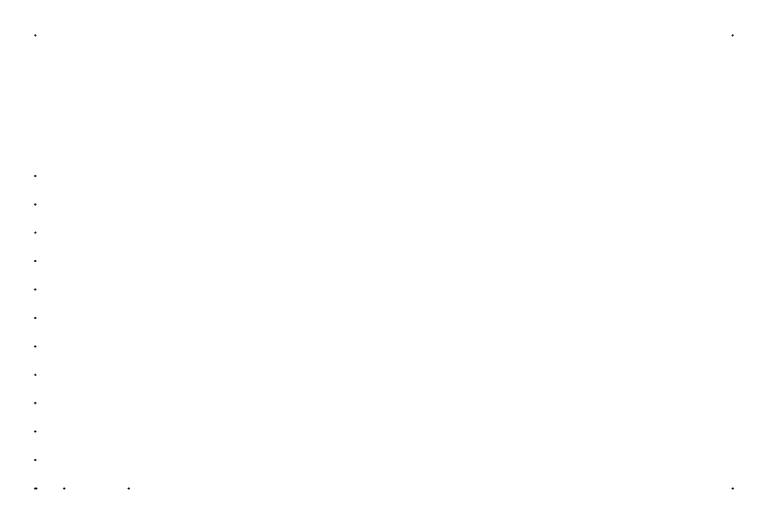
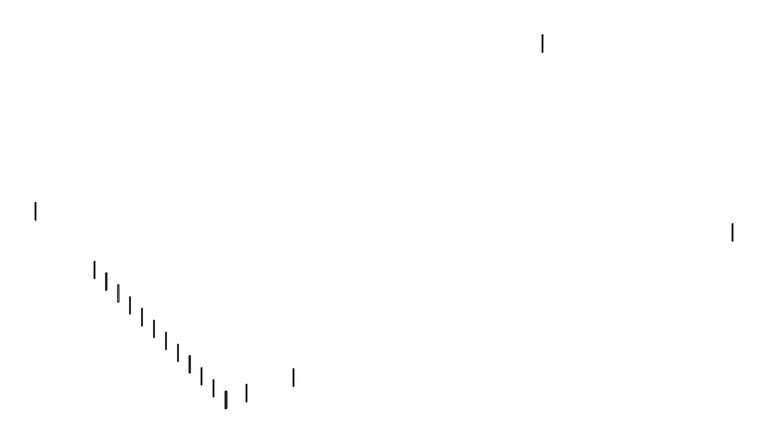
"""IFC4 building model written with IfcOpenShell, lengths in millimetres: railing geometry."""

from ifc_helpers import new_model, si_unit, point, frame, frame_2d, origin, place, context, project, spatial, circle_curve, trimmed, segment, composite_curve, outline, extrude, source, transform, mapped, element, save


def railing_9d34a361(model_context):
    return source(origin(), model_context, "Body", "SweptSolid", [
        extrude(outline(composite_curve([segment(trimmed(circle_curve(frame_2d((-6584.137978, 1915.9159601)), 12.5), [point((-6596.637978, 1915.9159601))], [point((-6571.637978, 1915.9159601))], False, "CARTESIAN"), True, "CONTINUOUS"), segment(trimmed(circle_curve(frame_2d((-6584.137978, 1915.9159601)), 12.5), [point((-6571.637978, 1915.9159601))], [point((-6596.637978, 1915.9159601))], False, "CARTESIAN"), True, "CONTINUOUS")], self_intersect=False)), frame((0.0, 0.0, 4000.0), z_axis=(0.0, 0.0, 1.0), x_axis=(1.0, 0.0, 0.0)), (0.0, 0.0, 1.0), 860.0),
        extrude(outline(composite_curve([segment(trimmed(circle_curve(frame_2d((-6584.137978, 915.9159601)), 12.5), [point((-6596.637978, 915.9159601))], [point((-6571.637978, 915.9159601))], False, "CARTESIAN"), True, "CONTINUOUS"), segment(trimmed(circle_curve(frame_2d((-6584.137978, 915.9159601)), 12.5), [point((-6571.637978, 915.9159601))], [point((-6596.637978, 915.9159601))], False, "CARTESIAN"), True, "CONTINUOUS")], self_intersect=False)), frame((0.0, 0.0, 4000.0), z_axis=(0.0, 0.0, 1.0), x_axis=(1.0, 0.0, 0.0)), (0.0, 0.0, 1.0), 860.0),
        extrude(outline(composite_curve([segment(trimmed(circle_curve(frame_2d((-6584.137978, -84.0840399)), 12.5), [point((-6596.637978, -84.0840399))], [point((-6571.637978, -84.0840399))], False, "CARTESIAN"), True, "CONTINUOUS"), segment(trimmed(circle_curve(frame_2d((-6584.137978, -84.0840399)), 12.5), [point((-6571.637978, -84.0840399))], [point((-6596.637978, -84.0840399))], False, "CARTESIAN"), True, "CONTINUOUS")], self_intersect=False)), frame((0.0, 0.0, 4000.0), z_axis=(0.0, 0.0, 1.0), x_axis=(1.0, 0.0, 0.0)), (0.0, 0.0, 1.0), 860.0),
        extrude(outline(composite_curve([segment(trimmed(circle_curve(frame_2d((-6584.137978, -1084.0840399)), 12.5), [point((-6596.637978, -1084.0840399))], [point((-6571.637978, -1084.0840399))], False, "CARTESIAN"), True, "CONTINUOUS"), segment(trimmed(circle_curve(frame_2d((-6584.137978, -1084.0840399)), 12.5), [point((-6571.637978, -1084.0840399))], [point((-6596.637978, -1084.0840399))], False, "CARTESIAN"), True, "CONTINUOUS")], self_intersect=False)), frame((0.0, 0.0, 4000.0), z_axis=(0.0, 0.0, 1.0), x_axis=(1.0, 0.0, 0.0)), (0.0, 0.0, 1.0), 860.0),
        extrude(outline(composite_curve([segment(trimmed(circle_curve(frame_2d((-6584.137978, -2084.0840399)), 12.5), [point((-6596.637978, -2084.0840399))], [point((-6571.637978, -2084.0840399))], False, "CARTESIAN"), True, "CONTINUOUS"), segment(trimmed(circle_curve(frame_2d((-6584.137978, -2084.0840399)), 12.5), [point((-6571.637978, -2084.0840399))], [point((-6596.637978, -2084.0840399))], False, "CARTESIAN"), True, "CONTINUOUS")], self_intersect=False)), frame((0.0, 0.0, 4000.0), z_axis=(0.0, 0.0, 1.0), x_axis=(1.0, 0.0, 0.0)), (0.0, 0.0, 1.0), 860.0),
        extrude(outline(composite_curve([segment(trimmed(circle_curve(frame_2d((-6584.137978, -3084.0840399)), 12.5), [point((-6596.637978, -3084.0840399))], [point((-6571.637978, -3084.0840399))], False, "CARTESIAN"), True, "CONTINUOUS"), segment(trimmed(circle_curve(frame_2d((-6584.137978, -3084.0840399)), 12.5), [point((-6571.637978, -3084.0840399))], [point((-6596.637978, -3084.0840399))], False, "CARTESIAN"), True, "CONTINUOUS")], self_intersect=False)), frame((0.0, 0.0, 4000.0), z_axis=(0.0, 0.0, 1.0), x_axis=(1.0, 0.0, 0.0)), (0.0, 0.0, 1.0), 860.0),
        extrude(outline(composite_curve([segment(trimmed(circle_curve(frame_2d((-6584.137978, -4084.0840399)), 12.5), [point((-6596.637978, -4084.0840399))], [point((-6571.637978, -4084.0840399))], False, "CARTESIAN"), True, "CONTINUOUS"), segment(trimmed(circle_curve(frame_2d((-6584.137978, -4084.0840399)), 12.5), [point((-6571.637978, -4084.0840399))], [point((-6596.637978, -4084.0840399))], False, "CARTESIAN"), True, "CONTINUOUS")], self_intersect=False)), frame((0.0, 0.0, 4000.0), z_axis=(0.0, 0.0, 1.0), x_axis=(1.0, 0.0, 0.0)), (0.0, 0.0, 1.0), 860.0),
        extrude(outline(composite_curve([segment(trimmed(circle_curve(frame_2d((-6584.137978, -5084.0840399)), 12.5), [point((-6596.637978, -5084.0840399))], [point((-6571.637978, -5084.0840399))], False, "CARTESIAN"), True, "CONTINUOUS"), segment(trimmed(circle_curve(frame_2d((-6584.137978, -5084.0840399)), 12.5), [point((-6571.637978, -5084.0840399))], [point((-6596.637978, -5084.0840399))], False, "CARTESIAN"), True, "CONTINUOUS")], self_intersect=False)), frame((0.0, 0.0, 4000.0), z_axis=(0.0, 0.0, 1.0), x_axis=(1.0, 0.0, 0.0)), (0.0, 0.0, 1.0), 860.0),
        extrude(outline(composite_curve([segment(trimmed(circle_curve(frame_2d((-6584.137978, -6084.0840399)), 12.5), [point((-6596.637978, -6084.0840399))], [point((-6571.637978, -6084.0840399))], False, "CARTESIAN"), True, "CONTINUOUS"), segment(trimmed(circle_curve(frame_2d((-6584.137978, -6084.0840399)), 12.5), [point((-6571.637978, -6084.0840399))], [point((-6596.637978, -6084.0840399))], False, "CARTESIAN"), True, "CONTINUOUS")], self_intersect=False)), frame((0.0, 0.0, 4000.0), z_axis=(0.0, 0.0, 1.0), x_axis=(1.0, 0.0, 0.0)), (0.0, 0.0, 1.0), 860.0),
        extrude(outline(composite_curve([segment(trimmed(circle_curve(frame_2d((-6584.137978, -7084.0840399)), 12.5), [point((-6596.637978, -7084.0840399))], [point((-6571.637978, -7084.0840399))], False, "CARTESIAN"), True, "CONTINUOUS"), segment(trimmed(circle_curve(frame_2d((-6584.137978, -7084.0840399)), 12.5), [point((-6571.637978, -7084.0840399))], [point((-6596.637978, -7084.0840399))], False, "CARTESIAN"), True, "CONTINUOUS")], self_intersect=False)), frame((0.0, 0.0, 4000.0), z_axis=(0.0, 0.0, 1.0), x_axis=(1.0, 0.0, 0.0)), (0.0, 0.0, 1.0), 860.0),
        extrude(outline(composite_curve([segment(trimmed(circle_curve(frame_2d((-6584.137978, -8084.0840399)), 12.5), [point((-6596.637978, -8084.0840399))], [point((-6571.637978, -8084.0840399))], False, "CARTESIAN"), True, "CONTINUOUS"), segment(trimmed(circle_curve(frame_2d((-6584.137978, -8084.0840399)), 12.5), [point((-6571.637978, -8084.0840399))], [point((-6596.637978, -8084.0840399))], False, "CARTESIAN"), True, "CONTINUOUS")], self_intersect=False)), frame((0.0, 0.0, 4000.0), z_axis=(0.0, 0.0, 1.0), x_axis=(1.0, 0.0, 0.0)), (0.0, 0.0, 1.0), 860.0),
        extrude(outline(composite_curve([segment(trimmed(circle_curve(frame_2d((-6549.137978, -9084.0840399)), 12.5), [point((-6549.137978, -9096.5840399))], [point((-6549.137978, -9071.5840399))], False, "CARTESIAN"), True, "CONTINUOUS"), segment(trimmed(circle_curve(frame_2d((-6549.137978, -9084.0840399)), 12.5), [point((-6549.137978, -9071.5840399))], [point((-6549.137978, -9096.5840399))], False, "CARTESIAN"), True, "CONTINUOUS")], self_intersect=False)), frame((0.0, 0.0, 4000.0), z_axis=(0.0, 0.0, 1.0), x_axis=(1.0, 0.0, 0.0)), (0.0, 0.0, 1.0), 860.0),
        extrude(outline(composite_curve([segment(trimmed(circle_curve(frame_2d((17965.862022, -9084.0840399)), 12.5), [point((17978.362022, -9084.0840399))], [point((17953.362022, -9084.0840399))], False, "CARTESIAN"), True, "CONTINUOUS"), segment(trimmed(circle_curve(frame_2d((17965.862022, -9084.0840399)), 12.5), [point((17953.362022, -9084.0840399))], [point((17978.362022, -9084.0840399))], False, "CARTESIAN"), True, "CONTINUOUS")], self_intersect=False)), frame((0.0, 0.0, 4000.0), z_axis=(0.0, 0.0, 1.0), x_axis=(1.0, 0.0, 0.0)), (0.0, 0.0, 1.0), 860.0),
        extrude(outline(composite_curve([segment(trimmed(circle_curve(frame_2d((17965.862022, 6865.9159601)), 12.5), [point((17965.862022, 6878.4159601))], [point((17965.862022, 6853.4159601))], False, "CARTESIAN"), True, "CONTINUOUS"), segment(trimmed(circle_curve(frame_2d((17965.862022, 6865.9159601)), 12.5), [point((17965.862022, 6853.4159601))], [point((17965.862022, 6878.4159601))], False, "CARTESIAN"), True, "CONTINUOUS")], self_intersect=False)), frame((0.0, 0.0, 4000.0), z_axis=(0.0, 0.0, 1.0), x_axis=(1.0, 0.0, 0.0)), (0.0, 0.0, 1.0), 860.0),
        extrude(outline(composite_curve([segment(trimmed(circle_curve(frame_2d((-6584.137978, 6865.9159601)), 12.5), [point((-6596.637978, 6865.9159601))], [point((-6571.637978, 6865.9159601))], False, "CARTESIAN"), True, "CONTINUOUS"), segment(trimmed(circle_curve(frame_2d((-6584.137978, 6865.9159601)), 12.5), [point((-6571.637978, 6865.9159601))], [point((-6596.637978, 6865.9159601))], False, "CARTESIAN"), True, "CONTINUOUS")], self_intersect=False)), frame((0.0, 0.0, 4000.0), z_axis=(0.0, 0.0, 1.0), x_axis=(1.0, 0.0, 0.0)), (0.0, 0.0, 1.0), 860.0),
        extrude(outline(composite_curve([segment(trimmed(circle_curve(frame_2d((-6584.137978, -9084.0840399)), 12.5), [point((-6584.137978, -9096.5840399))], [point((-6584.137978, -9071.5840399))], False, "CARTESIAN"), True, "CONTINUOUS"), segment(trimmed(circle_curve(frame_2d((-6584.137978, -9084.0840399)), 12.5), [point((-6584.137978, -9071.5840399))], [point((-6584.137978, -9096.5840399))], False, "CARTESIAN"), True, "CONTINUOUS")], self_intersect=False)), frame((0.0, 0.0, 4000.0), z_axis=(0.0, 0.0, 1.0), x_axis=(1.0, 0.0, 0.0)), (0.0, 0.0, 1.0), 860.0),
        extrude(outline(composite_curve([segment(trimmed(circle_curve(frame_2d((-3296.637978, -9084.0840399)), 12.5), [point((-3296.637978, -9096.5840399))], [point((-3296.637978, -9071.5840399))], False, "CARTESIAN"), True, "CONTINUOUS"), segment(trimmed(circle_curve(frame_2d((-3296.637978, -9084.0840399)), 12.5), [point((-3296.637978, -9071.5840399))], [point((-3296.637978, -9096.5840399))], False, "CARTESIAN"), True, "CONTINUOUS")], self_intersect=False)), frame((0.0, 0.0, 4000.0), z_axis=(0.0, 0.0, 1.0), x_axis=(1.0, 0.0, 0.0)), (0.0, 0.0, 1.0), 860.0),
        extrude(outline(composite_curve([segment(trimmed(circle_curve(frame_2d((-5561.637978, -9084.0840399)), 12.5), [point((-5561.637978, -9096.5840399))], [point((-5561.637978, -9071.5840399))], False, "CARTESIAN"), True, "CONTINUOUS"), segment(trimmed(circle_curve(frame_2d((-5561.637978, -9084.0840399)), 12.5), [point((-5561.637978, -9071.5840399))], [point((-5561.637978, -9096.5840399))], False, "CARTESIAN"), True, "CONTINUOUS")], self_intersect=False)), frame((0.0, 0.0, 4000.0), z_axis=(0.0, 0.0, 1.0), x_axis=(1.0, 0.0, 0.0)), (0.0, 0.0, 1.0), 860.0),
    ])


if __name__ == "__main__":
    model = new_model("IFC4")
    model_context = context("Model", 3, world=origin())
    ifc_project = project(units=[si_unit("LENGTHUNIT", "METRE", prefix="MILLI")], contexts=[model_context])
    site = spatial("IfcSite", under=ifc_project)
    building = spatial("IfcBuilding", under=site)
    placement = place(None, origin())
    railing_shape = railing_9d34a361(model_context)
    element("IfcRailing", 1, ObjectType="Tuyau 900\xa0mm", at=placement, inside=building, context=model_context, shape_type="MappedRepresentation", body=[
        mapped(railing_shape, transform((0.0, 0.0, 0.0), x_axis=(1.0, 0.0, 0.0), y_axis=(0.0, 1.0, 0.0), z_axis=(0.0, 0.0, 1.0))),
    ])
    save(model, "model.ifc")
